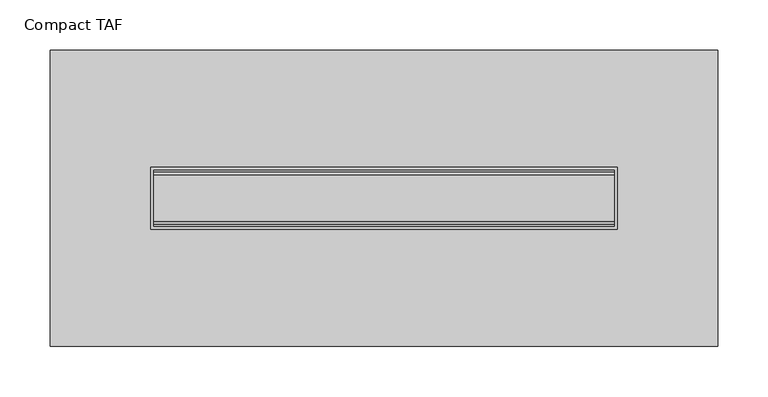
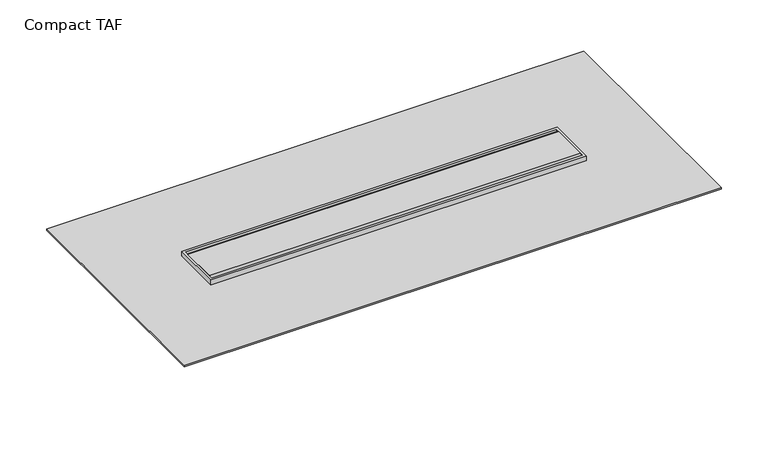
"""IFC4 building model written with IfcOpenShell, lengths in millimetres: sanitary terminal geometry, NLRS_PF_52_UN_Compact TAF_Easydrain : Compact TAF."""

from ifc_helpers import new_model, si_unit, point, frame, frame_2d, origin, place, context, project, spatial, polyline, circle_curve, ellipse_curve, trimmed, segment, composite_curve, outline, extrude, source, transform, mapped, element, save
from ifc_brep_helpers import plane_surface, cylinder_surface, advanced_brep


def compact_taf_09897acd(model_context):
    return source(origin(), model_context, "Body", "SolidModel", [
        extrude(outline(composite_curve([segment(polyline([(-23.0, 0.0), (23.0, 0.0)]), True, "CONTINUOUS"), segment(trimmed(circle_curve(frame_2d((23.0, -3.0)), 3.0), [point((23.0, 0.0))], [point((26.0, -3.0))], False, "CARTESIAN"), True, "CONTINUOUS"), segment(polyline([(26.0, -3.0), (26.0, -12.0), (-26.0, -12.0), (-26.0, -3.0)]), True, "CONTINUOUS"), segment(trimmed(circle_curve(frame_2d((-23.0, -3.0)), 3.0), [point((-26.0, -3.0))], [point((-23.0, 0.0))], False, "CARTESIAN"), True, "CONTINUOUS")], self_intersect=False)), frame((-229.5, 0.0, 0.0), z_axis=(1.0, 0.0, 0.0), x_axis=(0.0, 1.0, 0.0)), (0.0, 0.0, 1.0), 459.0),
        extrude(outline(polyline([(332.5, 147.5), (332.5, -147.5), (-332.5, -147.5), (-332.5, 147.5), (332.5, 147.5)]), holes=[polyline([(232.5, 31.0), (-232.5, 31.0), (-232.5, -31.0), (232.5, -31.0), (232.5, 31.0)])]), frame((0.0, 0.0, -8.0), z_axis=(0.0, 0.0, 1.0), x_axis=(1.0, 0.0, 0.0)), (0.0, 0.0, 1.0), 2.0),
        advanced_brep(
        [(-232.5, -31.0, -25.0), (-110.0, -31.0, -27.0), (-110.0, -31.0, -70.0), (110.0, -31.0, -70.0), (110.0, -31.0, -27.0), (232.5, -31.0, -25.0), (232.5, -31.0, -9.0), (-232.5, -31.0, -9.0), (0.0, -31.0, -25.0), (0.0, -31.0, -65.0), (232.5, -31.0, 0.0), (-232.5, -31.0, 0.0), (-232.5, -31.0, -7.0), (232.5, -31.0, -7.0), (-232.5, 31.0, 0.0), (232.5, 31.0, 0.0), (232.5, 31.0, -7.0), (-232.5, 31.0, -7.0), (232.5, 31.0, -25.0), (110.0, 31.0, -27.0), (110.0, 31.0, -70.0), (-110.0, 31.0, -70.0), (-110.0, 31.0, -27.0), (-232.5, 31.0, -25.0), (-232.5, 31.0, -9.0), (232.5, 31.0, -9.0), (-212.5, 0.0, -25.3265306), (-172.5, 0.0, -25.9795918), (232.5, 30.0, -9.0), (232.5, -30.0, -9.0), (232.5, -30.0, -7.0), (232.5, 30.0, -7.0), (-229.5, 28.0, 0.0), (229.5, 28.0, 0.0), (229.5, -28.0, 0.0), (-229.5, -28.0, 0.0), (-232.5, -30.0, -9.0), (-232.5, 30.0, -9.0), (-232.5, 30.0, -7.0), (-232.5, -30.0, -7.0), (172.5, 0.0, -25.9795918), (212.5, 0.0, -25.3265306), (0.0, -50.0, -25.0), (0.0, -50.0, -65.0), (229.5, 28.0, -12.0), (-229.5, 28.0, -12.0), (-229.5, -28.0, -12.0), (229.5, -28.0, -12.0), (250.0, 47.5, -7.0), (-250.0, 47.5, -7.0), (-250.0, -64.5, -7.0), (250.0, -64.5, -7.0), (250.0, 47.5, -9.0), (250.0, -64.5, -9.0), (-250.0, -64.5, -9.0), (-250.0, 47.5, -9.0), (-212.5, 0.0, -70.0), (-172.5, 0.0, -70.0), (172.5, 0.0, -70.0), (212.5, 0.0, -70.0)],
        [
            (0, 1),
            (1, 2),
            (2, 3),
            (3, 4),
            (4, 5),
            (5, 6),
            (6, 7),
            (7, 0),
            (8, 9, circle_curve(frame((0.0, -31.0, -45.0), z_axis=(0.0, 1.0, 0.0), x_axis=(0.0, 0.0, -1.0)), 20.0)),
            (9, 8, circle_curve(frame((0.0, -31.0, -45.0), z_axis=(0.0, 1.0, 0.0), x_axis=(0.0, 0.0, -1.0)), 20.0)),
            (10, 11),
            (11, 12),
            (12, 13),
            (13, 10),
            (14, 15),
            (15, 16),
            (16, 17),
            (17, 14),
            (18, 19),
            (19, 20),
            (20, 21),
            (21, 22),
            (22, 23),
            (23, 24),
            (24, 25),
            (25, 18),
            (0, 23),
            (22, 1),
            (26, 27, ellipse_curve(frame((-192.5, 0.0, -25.6530612), z_axis=(0.01632435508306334, 0.0, 0.9998667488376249), x_axis=(-0.9998667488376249, 0.0, 0.01632435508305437)), 20.0026654, 20.0)),
            (27, 26, ellipse_curve(frame((-192.5, 0.0, -25.6530612), z_axis=(0.01632435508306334, 0.0, 0.9998667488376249), x_axis=(-0.9998667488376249, 0.0, 0.01632435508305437)), 20.0026654, 20.0)),
            (5, 18),
            (25, 28),
            (28, 29),
            (29, 6),
            (15, 10),
            (13, 30),
            (30, 31),
            (31, 16),
            (14, 11),
            (32, 33),
            (33, 34),
            (34, 35),
            (35, 32),
            (7, 36),
            (36, 37),
            (37, 24),
            (17, 38),
            (38, 39),
            (39, 12),
            (21, 2),
            (20, 3),
            (19, 4),
            (40, 41, ellipse_curve(frame((192.5, 0.0, -25.6530612), z_axis=(-0.016324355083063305, 0.0, 0.9998667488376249), x_axis=(0.9998667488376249, 0.0, 0.016324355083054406)), 20.0026654, 20.0)),
            (41, 40, ellipse_curve(frame((192.5, 0.0, -25.6530612), z_axis=(-0.016324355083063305, 0.0, 0.9998667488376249), x_axis=(0.9998667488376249, 0.0, 0.016324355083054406)), 20.0026654, 20.0)),
            (42, 43, circle_curve(frame((0.0, -50.0, -45.0), z_axis=(0.0, -1.0, 0.0), x_axis=(0.0, 0.0, -1.0)), 20.0)),
            (43, 42, circle_curve(frame((0.0, -50.0, -45.0), z_axis=(0.0, -1.0, 0.0), x_axis=(0.0, 0.0, -1.0)), 20.0)),
            (43, 9),
            (8, 42),
            (44, 45),
            (45, 46),
            (46, 47),
            (47, 44),
            (44, 33),
            (32, 45),
            (35, 46),
            (34, 47),
            (48, 49),
            (49, 50),
            (50, 51),
            (51, 48),
            (52, 53),
            (53, 54),
            (54, 55),
            (55, 52),
            (48, 52),
            (55, 49),
            (54, 50),
            (53, 51),
            (56, 57, circle_curve(frame((-192.5, 0.0, -70.0), z_axis=(0.0, 0.0, -1.0), x_axis=(1.0, 0.0, 0.0)), 20.0)),
            (57, 56, circle_curve(frame((-192.5, 0.0, -70.0), z_axis=(0.0, 0.0, -1.0), x_axis=(1.0, 0.0, 0.0)), 20.0)),
            (58, 59, circle_curve(frame((192.5, 0.0, -70.0), z_axis=(0.0, 0.0, -1.0), x_axis=(1.0, 0.0, 0.0)), 20.0)),
            (59, 58, circle_curve(frame((192.5, 0.0, -70.0), z_axis=(0.0, 0.0, -1.0), x_axis=(1.0, 0.0, 0.0)), 20.0)),
            (57, 27),
            (26, 56),
            (59, 41),
            (40, 58),
        ],
        [
            plane_surface(frame((-232.5, -31.0, -25.0), z_axis=(0.0, -1.0000000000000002, 0.0), x_axis=(0.9998667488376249, 0.0, -0.01632435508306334))),
            plane_surface(frame((-232.5, 31.0, -25.0), z_axis=(0.0, 1.0000000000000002, 0.0), x_axis=(-0.9998667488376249, 0.0, 0.01632435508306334))),
            plane_surface(frame((-232.5, -31.0, -25.0), z_axis=(-0.01632435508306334, 0.0, -0.9998667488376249), x_axis=(0.0, 1.0, 0.0))),
            plane_surface(frame((232.5, -31.0, -25.0), z_axis=(1.0, 0.0, 0.0), x_axis=(0.0, 1.0, 0.0))),
            plane_surface(frame((232.5, -31.0, 0.0), z_axis=(0.0, 0.0, 1.0), x_axis=(0.0, 1.0, 0.0))),
            plane_surface(frame((-232.5, -31.0, 0.0), z_axis=(-1.0, 0.0, 0.0), x_axis=(0.0, 1.0, 0.0))),
            plane_surface(frame((-110.0, -31.0, -27.0), z_axis=(-1.0, 0.0, 0.0), x_axis=(0.0, 1.0, 0.0))),
            plane_surface(frame((-110.0, -31.0, -70.0), z_axis=(0.0, 0.0, -1.0), x_axis=(0.0, 1.0, 0.0))),
            plane_surface(frame((110.0, -31.0, -70.0), z_axis=(1.0, 0.0, 0.0), x_axis=(0.0, 1.0, 0.0))),
            plane_surface(frame((110.0, -31.0, -27.0), z_axis=(0.016324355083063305, 0.0, -0.9998667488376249), x_axis=(0.0, 1.0, 0.0))),
            plane_surface(frame((0.0, -50.0, -45.0), z_axis=(0.0, -1.0, 0.0), x_axis=(1.0, 0.0, 0.0))),
            cylinder_surface(frame((0.0, 0.0, -45.0), z_axis=(0.0, 1.0, 0.0), x_axis=(0.0, 0.0, -1.0)), 20.0),
            plane_surface(frame((-229.5, 28.0, -12.0), z_axis=(0.0, 0.0, 1.0), x_axis=(1.0, 0.0, 0.0))),
            plane_surface(frame((229.5, 28.0, 25.5943996), z_axis=(0.0, -1.0, 0.0), x_axis=(0.0, 0.0, -1.0))),
            plane_surface(frame((-229.5, 28.0, 25.5943996), z_axis=(1.0, 0.0, 0.0), x_axis=(0.0, 0.0, -1.0))),
            plane_surface(frame((-229.5, -28.0, 25.5943996), z_axis=(0.0, 1.0, 0.0), x_axis=(0.0, 0.0, -1.0))),
            plane_surface(frame((229.5, -28.0, 25.5943996), z_axis=(-1.0, 0.0, 0.0), x_axis=(0.0, 0.0, -1.0))),
            plane_surface(frame((232.5, 30.0, -7.0), z_axis=(0.0, 0.0, 1.0), x_axis=(0.0, -1.0, 0.0))),
            plane_surface(frame((232.5, 30.0, -9.0), z_axis=(0.0, 0.0, -1.0), x_axis=(0.0, 1.0, 0.0))),
            plane_surface(frame((250.0, 47.5, -7.0), z_axis=(0.0, 1.0, 0.0), x_axis=(0.0, 0.0, -1.0))),
            plane_surface(frame((-250.0, 47.5, -7.0), z_axis=(-1.0, 0.0, 0.0), x_axis=(0.0, 0.0, -1.0))),
            plane_surface(frame((-250.0, -64.5, -7.0), z_axis=(0.0, -1.0, 0.0), x_axis=(0.0, 0.0, -1.0))),
            plane_surface(frame((250.0, -64.5, -7.0), z_axis=(1.0, 0.0, 0.0), x_axis=(0.0, 0.0, -1.0))),
            plane_surface(frame((-172.5, 0.0, -70.0), z_axis=(0.0, 0.0, -1.0), x_axis=(0.0, -1.0, 0.0))),
            cylinder_surface(frame((-192.5, 0.0, -70.0), z_axis=(0.0, 0.0, 1.0), x_axis=(1.0, 0.0, 0.0)), 20.0),
            cylinder_surface(frame((192.5, 0.0, 0.0), z_axis=(0.0, 0.0, 1.0), x_axis=(1.0, 0.0, 0.0)), 20.0),
        ],
        [
            (0, [[1, 2, 3, 4, 5, 6, 7, 8], [9, 10]]),
            (0, [[11, 12, 13, 14]]),
            (1, [[15, 16, 17, 18]]),
            (1, [[19, 20, 21, 22, 23, 24, 25, 26]]),
            (2, [[-1, 27, -23, 28], [29, 30]]),
            (3, [[31, -26, 32, 33, 34, -6]]),
            (3, [[35, -14, 36, 37, 38, -16]]),
            (4, [[-11, -35, -15, 39], [40, 41, 42, 43]]),
            (5, [[-27, -8, 44, 45, 46, -24]]),
            (5, [[-39, -18, 47, 48, 49, -12]]),
            (6, [[-2, -28, -22, 50]]),
            (7, [[-3, -50, -21, 51]]),
            (8, [[-4, -51, -20, 52]]),
            (9, [[-5, -52, -19, -31], [53, 54]]),
            (10, [[55, 56]]),
            (11, [[-56, 57, -9, 58]]),
            (11, [[-55, -58, -10, -57]]),
            (12, [[59, 60, 61, 62]]),
            (13, [[-59, 63, -40, 64]]),
            (14, [[-60, -64, -43, 65]]),
            (15, [[-61, -65, -42, 66]]),
            (16, [[-62, -66, -41, -63]]),
            (17, [[67, 68, 69, 70], [-13, -49, -48, -47, -17, -38, -37, -36]]),
            (18, [[71, 72, 73, 74], [-7, -34, -33, -32, -25, -46, -45, -44]]),
            (19, [[-67, 75, -74, 76]]),
            (20, [[-68, -76, -73, 77]]),
            (21, [[-69, -77, -72, 78]]),
            (22, [[-70, -78, -71, -75]]),
            (23, [[79, 80]]),
            (23, [[81, 82]]),
            (24, [[-80, 83, -29, 84]]),
            (24, [[-79, -84, -30, -83]]),
            (25, [[-82, 85, -53, 86]]),
            (25, [[-81, -86, -54, -85]]),
        ],
    ),
    ])


if __name__ == "__main__":
    model = new_model("IFC4")
    model_context = context("Model", 3, world=origin())
    ifc_project = project(units=[si_unit("LENGTHUNIT", "METRE", prefix="MILLI")], contexts=[model_context])
    site = spatial("IfcSite", under=ifc_project)
    building = spatial("IfcBuilding", under=site)
    placement = place(None, origin())
    compact_taf_shape = compact_taf_09897acd(model_context)
    element("IfcSanitaryTerminal", 1, ObjectType="NLRS_PF_52_UN_Compact TAF_Easydrain : Compact TAF", at=placement, inside=building, context=model_context, shape_type="MappedRepresentation", body=[
        mapped(compact_taf_shape, transform((0.0, 0.0, 0.0), x_axis=(1.0, 0.0, 0.0), y_axis=(0.0, 1.0, 0.0), z_axis=(0.0, 0.0, 1.0))),
    ])
    save(model, "model.ifc")
